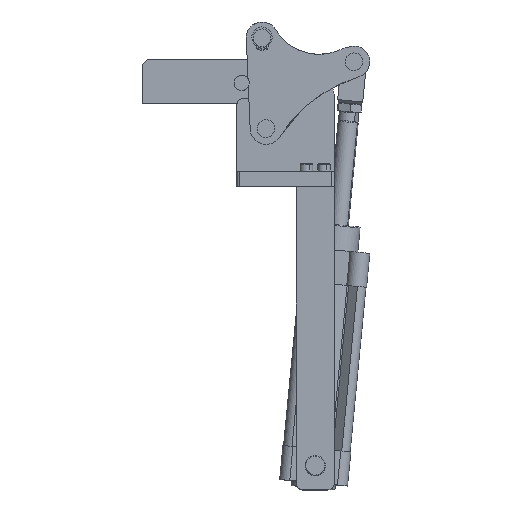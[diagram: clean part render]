
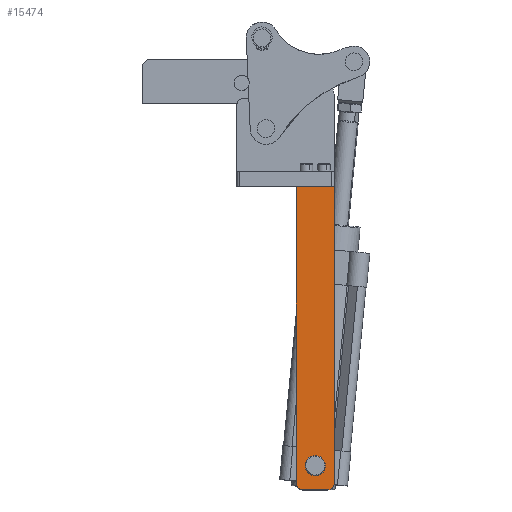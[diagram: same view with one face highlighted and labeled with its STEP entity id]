
A CAD part, top view. The second image highlights one B-rep face of the part: STEP entity #15474.
In plain terms, the highlighted planar face has unit normal (0, 0, 1).
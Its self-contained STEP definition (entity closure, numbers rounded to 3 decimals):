
#180 = ORIENTED_EDGE ( 'NONE', *, *, #21083, .T. ) ;
#618 = CARTESIAN_POINT ( 'NONE',  ( 7., 19.1, 12. ) ) ;
#1182 = ORIENTED_EDGE ( 'NONE', *, *, #4199, .T. ) ;
#1342 = CARTESIAN_POINT ( 'NONE',  ( 25., 5., 12. ) ) ;
#1558 = EDGE_CURVE ( 'NONE', #8179, #9354, #24027, .T. ) ;
#1973 = DIRECTION ( 'NONE',  ( 0., 0., 1. ) ) ;
#1998 = CARTESIAN_POINT ( 'NONE',  ( 0., 240., 12. ) ) ;
#2128 = PLANE ( 'NONE',  #16141 ) ;
#2377 = VECTOR ( 'NONE', #6325, 1000. ) ;
#2524 = LINE ( 'NONE', #25985, #2377 ) ;
#2845 = LINE ( 'NONE', #15495, #12902 ) ;
#3159 = ORIENTED_EDGE ( 'NONE', *, *, #5623, .T. ) ;
#4083 = DIRECTION ( 'NONE',  ( 1., 0., 0. ) ) ;
#4199 = EDGE_CURVE ( 'NONE', #10470, #8179, #2845, .T. ) ;
#4586 = VECTOR ( 'NONE', #17311, 1000. ) ;
#4817 = EDGE_CURVE ( 'NONE', #7669, #15226, #7992, .T. ) ;
#4832 = CARTESIAN_POINT ( 'NONE',  ( 30., 240., 12. ) ) ;
#4934 = DIRECTION ( 'NONE',  ( -1., 0., 0. ) ) ;
#5623 = EDGE_CURVE ( 'NONE', #17302, #26970, #15190, .T. ) ;
#5720 = CARTESIAN_POINT ( 'NONE',  ( 0., 5., 12. ) ) ;
#6325 = DIRECTION ( 'NONE',  ( -1., 0., 0. ) ) ;
#6495 = DIRECTION ( 'NONE',  ( -1., 0., 0. ) ) ;
#6663 = AXIS2_PLACEMENT_3D ( 'NONE', #14729, #1973, #4083 ) ;
#6750 = DIRECTION ( 'NONE',  ( 1., 0., 0. ) ) ;
#7669 = VERTEX_POINT ( 'NONE', #19145 ) ;
#7992 = CIRCLE ( 'NONE', #6663, 8. ) ;
#8179 = VERTEX_POINT ( 'NONE', #5720 ) ;
#9354 = VERTEX_POINT ( 'NONE', #26005 ) ;
#9444 = DIRECTION ( 'NONE',  ( 0., -1., 0. ) ) ;
#10470 = VERTEX_POINT ( 'NONE', #1998 ) ;
#11059 = ORIENTED_EDGE ( 'NONE', *, *, #27700, .T. ) ;
#11588 = CARTESIAN_POINT ( 'NONE',  ( 30., 5., 12. ) ) ;
#12902 = VECTOR ( 'NONE', #9444, 1000. ) ;
#12932 = FACE_BOUND ( 'NONE', #23316, .T. ) ;
#14414 = CIRCLE ( 'NONE', #25200, 8. ) ;
#14729 = CARTESIAN_POINT ( 'NONE',  ( 15., 19.1, 12. ) ) ;
#14801 = ORIENTED_EDGE ( 'NONE', *, *, #4817, .F. ) ;
#15190 = CIRCLE ( 'NONE', #25967, 5. ) ;
#15226 = VERTEX_POINT ( 'NONE', #618 ) ;
#15474 = ADVANCED_FACE ( 'NONE', ( #21223, #12932 ), #2128, .F. ) ;
#15495 = CARTESIAN_POINT ( 'NONE',  ( 0., 5., 12. ) ) ;
#15989 = EDGE_LOOP ( 'NONE', ( #25367, #11059, #1182, #18734, #180, #3159 ) ) ;
#16141 = AXIS2_PLACEMENT_3D ( 'NONE', #19259, #27557, #6495 ) ;
#16370 = CARTESIAN_POINT ( 'NONE',  ( 25., 0., 12. ) ) ;
#17302 = VERTEX_POINT ( 'NONE', #16370 ) ;
#17311 = DIRECTION ( 'NONE',  ( 0., 1., 0. ) ) ;
#17408 = CARTESIAN_POINT ( 'NONE',  ( 15., 19.1, 12. ) ) ;
#17713 = DIRECTION ( 'NONE',  ( 0., 0., 1. ) ) ;
#17943 = EDGE_CURVE ( 'NONE', #26970, #24322, #21509, .T. ) ;
#18333 = DIRECTION ( 'NONE',  ( 1., 0., 0. ) ) ;
#18611 = AXIS2_PLACEMENT_3D ( 'NONE', #21900, #17713, #4934 ) ;
#18734 = ORIENTED_EDGE ( 'NONE', *, *, #1558, .T. ) ;
#18738 = DIRECTION ( 'NONE',  ( 1., 0., 0. ) ) ;
#19145 = CARTESIAN_POINT ( 'NONE',  ( 23., 19.1, 12. ) ) ;
#19259 = CARTESIAN_POINT ( 'NONE',  ( 5., 5., 12. ) ) ;
#19822 = CARTESIAN_POINT ( 'NONE',  ( 30., 5., 12. ) ) ;
#20435 = DIRECTION ( 'NONE',  ( 0., 0., 1. ) ) ;
#20844 = LINE ( 'NONE', #25358, #26604 ) ;
#21083 = EDGE_CURVE ( 'NONE', #9354, #17302, #20844, .T. ) ;
#21223 = FACE_OUTER_BOUND ( 'NONE', #15989, .T. ) ;
#21428 = ORIENTED_EDGE ( 'NONE', *, *, #26464, .F. ) ;
#21509 = LINE ( 'NONE', #19822, #4586 ) ;
#21900 = CARTESIAN_POINT ( 'NONE',  ( 5., 5., 12. ) ) ;
#23316 = EDGE_LOOP ( 'NONE', ( #21428, #14801 ) ) ;
#24027 = CIRCLE ( 'NONE', #18611, 5. ) ;
#24322 = VERTEX_POINT ( 'NONE', #4832 ) ;
#25200 = AXIS2_PLACEMENT_3D ( 'NONE', #17408, #25979, #6750 ) ;
#25358 = CARTESIAN_POINT ( 'NONE',  ( 5., 0., 12. ) ) ;
#25367 = ORIENTED_EDGE ( 'NONE', *, *, #17943, .T. ) ;
#25967 = AXIS2_PLACEMENT_3D ( 'NONE', #1342, #20435, #18333 ) ;
#25979 = DIRECTION ( 'NONE',  ( 0., 0., 1. ) ) ;
#25985 = CARTESIAN_POINT ( 'NONE',  ( 0., 240., 12. ) ) ;
#26005 = CARTESIAN_POINT ( 'NONE',  ( 5., 0., 12. ) ) ;
#26464 = EDGE_CURVE ( 'NONE', #15226, #7669, #14414, .T. ) ;
#26604 = VECTOR ( 'NONE', #18738, 1000. ) ;
#26970 = VERTEX_POINT ( 'NONE', #11588 ) ;
#27557 = DIRECTION ( 'NONE',  ( 0., 0., -1. ) ) ;
#27700 = EDGE_CURVE ( 'NONE', #24322, #10470, #2524, .T. ) ;
